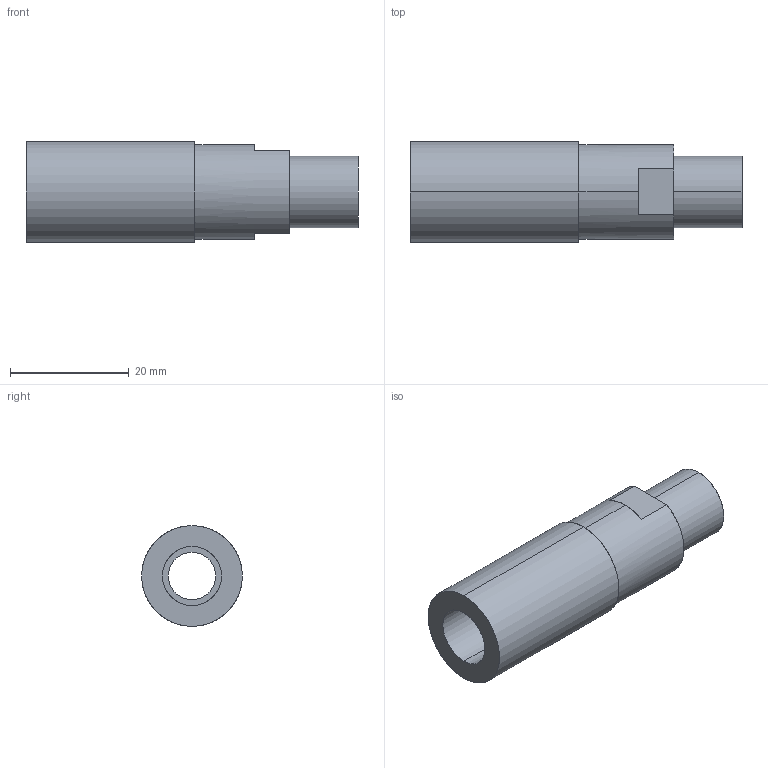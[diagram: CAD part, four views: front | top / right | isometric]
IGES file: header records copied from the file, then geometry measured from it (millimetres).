
Start section: SolidWorks IGES FILE using analytic representation for surfaces
Global section: file name: \\intra-srv04\開発データ\CAD_Data\CAD委員会\3D電子ｶﾀﾛｸﾞ\製品カタログ（新）\0_IGES\ER-AF20.IGS,41HSolidWorks 2004; native system: by SolidWorks Corporation; preprocessor: Version 5.3; author: yk0651; date: 050909.112331; units: millimetre
Bounding box: 56 x 17 x 17 mm (x, y, z)
Surface area: 4566.9 mm2 (no closed solid volume)
Topology: 0 solids, 0 shells, 19 faces, 396 edges, 396 vertices
Faces by surface type: revolution 10, bspline 9
